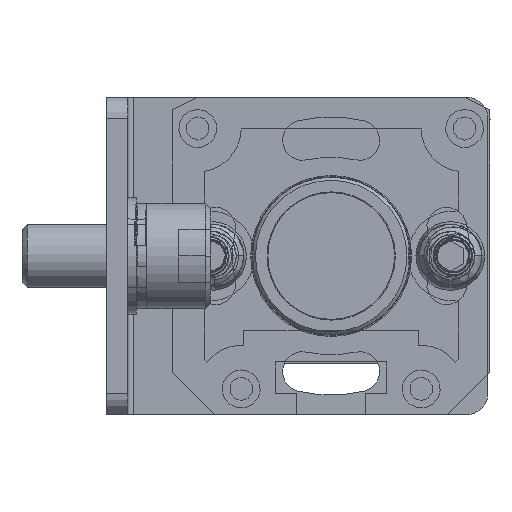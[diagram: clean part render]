
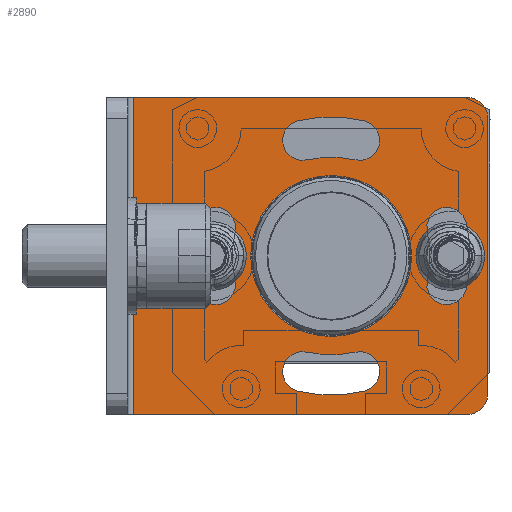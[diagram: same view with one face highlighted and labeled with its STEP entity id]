
A CAD part, front view. The second image highlights one B-rep face of the part: STEP entity #2890.
In plain terms, the highlighted planar face has unit normal (0, -1, 0).
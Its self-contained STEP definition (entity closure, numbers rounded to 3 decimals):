
#692=LINE('',#40670,#1452);
#697=LINE('',#40682,#1457);
#703=LINE('',#40698,#1463);
#707=LINE('',#40722,#1467);
#1452=VECTOR('',#13263,1.);
#1457=VECTOR('',#13272,1.);
#1463=VECTOR('',#13290,1.);
#1467=VECTOR('',#13320,1.);
#1962=PLANE('',#11082);
#2299=FACE_BOUND('',#4309,.T.);
#2300=FACE_BOUND('',#4310,.T.);
#2301=FACE_BOUND('',#4311,.T.);
#2302=FACE_BOUND('',#4312,.T.);
#2303=FACE_BOUND('',#4313,.T.);
#2304=FACE_BOUND('',#4314,.T.);
#2890=ADVANCED_FACE('',(#2299,#2300,#2301,#2302,#2303,#2304),#1962,.T.);
#4309=EDGE_LOOP('',(#6781,#6782,#6783,#6784));
#4310=EDGE_LOOP('',(#6785,#6786,#6787,#6788));
#4311=EDGE_LOOP('',(#6789,#6790,#6791,#6792));
#4312=EDGE_LOOP('',(#6793));
#4313=EDGE_LOOP('',(#6794,#6795,#6796,#6797));
#4314=EDGE_LOOP('',(#6798,#6799,#6800,#6801,#6802,#6803));
#6781=ORIENTED_EDGE('',*,*,#9603,.T.);
#6782=ORIENTED_EDGE('',*,*,#9604,.T.);
#6783=ORIENTED_EDGE('',*,*,#9542,.T.);
#6784=ORIENTED_EDGE('',*,*,#9605,.T.);
#6785=ORIENTED_EDGE('',*,*,#9606,.T.);
#6786=ORIENTED_EDGE('',*,*,#9546,.T.);
#6787=ORIENTED_EDGE('',*,*,#9607,.T.);
#6788=ORIENTED_EDGE('',*,*,#9550,.T.);
#6789=ORIENTED_EDGE('',*,*,#9608,.T.);
#6790=ORIENTED_EDGE('',*,*,#9554,.T.);
#6791=ORIENTED_EDGE('',*,*,#9609,.T.);
#6792=ORIENTED_EDGE('',*,*,#9558,.T.);
#6793=ORIENTED_EDGE('',*,*,#9563,.T.);
#6794=ORIENTED_EDGE('',*,*,#9610,.T.);
#6795=ORIENTED_EDGE('',*,*,#9611,.T.);
#6796=ORIENTED_EDGE('',*,*,#9612,.T.);
#6797=ORIENTED_EDGE('',*,*,#9564,.T.);
#6798=ORIENTED_EDGE('',*,*,#9613,.T.);
#6799=ORIENTED_EDGE('',*,*,#9614,.T.);
#6800=ORIENTED_EDGE('',*,*,#9598,.F.);
#6801=ORIENTED_EDGE('',*,*,#9584,.T.);
#6802=ORIENTED_EDGE('',*,*,#9590,.F.);
#6803=ORIENTED_EDGE('',*,*,#9615,.T.);
#8262=VERTEX_POINT('',#40580);
#8263=VERTEX_POINT('',#40581);
#8266=VERTEX_POINT('',#40589);
#8267=VERTEX_POINT('',#40590);
#8270=VERTEX_POINT('',#40598);
#8271=VERTEX_POINT('',#40599);
#8274=VERTEX_POINT('',#40607);
#8275=VERTEX_POINT('',#40608);
#8278=VERTEX_POINT('',#40616);
#8279=VERTEX_POINT('',#40617);
#8283=VERTEX_POINT('',#40627);
#8284=VERTEX_POINT('',#40630);
#8285=VERTEX_POINT('',#40631);
#8298=VERTEX_POINT('',#40667);
#8299=VERTEX_POINT('',#40669);
#8304=VERTEX_POINT('',#40681);
#8309=VERTEX_POINT('',#40699);
#8312=VERTEX_POINT('',#40709);
#8313=VERTEX_POINT('',#40710);
#8314=VERTEX_POINT('',#40718);
#8315=VERTEX_POINT('',#40720);
#8316=VERTEX_POINT('',#40723);
#8317=VERTEX_POINT('',#40724);
#9542=EDGE_CURVE('',#8262,#8263,#10244,.T.);
#9546=EDGE_CURVE('',#8266,#8267,#10246,.T.);
#9550=EDGE_CURVE('',#8270,#8271,#10248,.T.);
#9554=EDGE_CURVE('',#8274,#8275,#10250,.T.);
#9558=EDGE_CURVE('',#8278,#8279,#10252,.T.);
#9563=EDGE_CURVE('',#8283,#8283,#10255,.T.);
#9564=EDGE_CURVE('',#8284,#8285,#10256,.T.);
#9584=EDGE_CURVE('',#8298,#8299,#692,.T.);
#9590=EDGE_CURVE('',#8304,#8299,#697,.T.);
#9598=EDGE_CURVE('',#8298,#8309,#703,.T.);
#9603=EDGE_CURVE('',#8312,#8313,#10268,.T.);
#9604=EDGE_CURVE('',#8313,#8262,#10269,.T.);
#9605=EDGE_CURVE('',#8263,#8312,#10270,.T.);
#9606=EDGE_CURVE('',#8271,#8266,#10271,.T.);
#9607=EDGE_CURVE('',#8267,#8270,#10272,.T.);
#9608=EDGE_CURVE('',#8279,#8274,#10273,.T.);
#9609=EDGE_CURVE('',#8275,#8278,#10274,.T.);
#9610=EDGE_CURVE('',#8285,#8314,#10275,.T.);
#9611=EDGE_CURVE('',#8314,#8315,#10276,.T.);
#9612=EDGE_CURVE('',#8315,#8284,#10277,.T.);
#9613=EDGE_CURVE('',#8316,#8317,#707,.T.);
#9614=EDGE_CURVE('',#8317,#8309,#10278,.T.);
#9615=EDGE_CURVE('',#8304,#8316,#10279,.T.);
#10244=CIRCLE('',#11028,1.9);
#10246=CIRCLE('',#11031,13.15);
#10248=CIRCLE('',#11034,9.35);
#10250=CIRCLE('',#11037,1.9);
#10252=CIRCLE('',#11040,1.9);
#10255=CIRCLE('',#11044,7.6);
#10256=CIRCLE('',#11046,1.9);
#10268=CIRCLE('',#11070,1.9);
#10269=CIRCLE('',#11071,13.15);
#10270=CIRCLE('',#11072,9.35);
#10271=CIRCLE('',#11073,1.9);
#10272=CIRCLE('',#11074,1.9);
#10273=CIRCLE('',#11075,13.15);
#10274=CIRCLE('',#11076,9.35);
#10275=CIRCLE('',#11077,13.15);
#10276=CIRCLE('',#11078,1.9);
#10277=CIRCLE('',#11079,9.35);
#10278=CIRCLE('',#11080,2.);
#10279=CIRCLE('',#11081,2.);
#11028=AXIS2_PLACEMENT_3D('',#40579,#13179,#13180);
#11031=AXIS2_PLACEMENT_3D('',#40588,#13187,#13188);
#11034=AXIS2_PLACEMENT_3D('',#40597,#13195,#13196);
#11037=AXIS2_PLACEMENT_3D('',#40606,#13203,#13204);
#11040=AXIS2_PLACEMENT_3D('',#40615,#13211,#13212);
#11044=AXIS2_PLACEMENT_3D('',#40626,#13221,#13222);
#11046=AXIS2_PLACEMENT_3D('',#40629,#13225,#13226);
#11070=AXIS2_PLACEMENT_3D('',#40708,#13300,#13301);
#11071=AXIS2_PLACEMENT_3D('',#40711,#13302,#13303);
#11072=AXIS2_PLACEMENT_3D('',#40712,#13304,#13305);
#11073=AXIS2_PLACEMENT_3D('',#40713,#13306,#13307);
#11074=AXIS2_PLACEMENT_3D('',#40714,#13308,#13309);
#11075=AXIS2_PLACEMENT_3D('',#40715,#13310,#13311);
#11076=AXIS2_PLACEMENT_3D('',#40716,#13312,#13313);
#11077=AXIS2_PLACEMENT_3D('',#40717,#13314,#13315);
#11078=AXIS2_PLACEMENT_3D('',#40719,#13316,#13317);
#11079=AXIS2_PLACEMENT_3D('',#40721,#13318,#13319);
#11080=AXIS2_PLACEMENT_3D('',#40725,#13321,#13322);
#11081=AXIS2_PLACEMENT_3D('',#40726,#13323,#13324);
#11082=AXIS2_PLACEMENT_3D('',#40727,#13325,#13326);
#13179=DIRECTION('',(0.,1.,0.));
#13180=DIRECTION('',(0.,0.,1.));
#13187=DIRECTION('',(0.,1.,0.));
#13188=DIRECTION('',(0.,0.,1.));
#13195=DIRECTION('',(0.,-1.,0.));
#13196=DIRECTION('',(0.,0.,1.));
#13203=DIRECTION('',(0.,1.,0.));
#13204=DIRECTION('',(0.,0.,1.));
#13211=DIRECTION('',(0.,1.,0.));
#13212=DIRECTION('',(0.,0.,1.));
#13221=DIRECTION('',(0.,1.,0.));
#13222=DIRECTION('',(0.,0.,1.));
#13225=DIRECTION('',(0.,1.,0.));
#13226=DIRECTION('',(0.,0.,1.));
#13263=DIRECTION('',(0.,0.,-1.));
#13272=DIRECTION('',(-1.,0.,0.));
#13290=DIRECTION('',(1.,0.,0.));
#13300=DIRECTION('',(0.,1.,0.));
#13301=DIRECTION('',(0.,0.,1.));
#13302=DIRECTION('',(0.,1.,0.));
#13303=DIRECTION('',(0.,0.,1.));
#13304=DIRECTION('',(0.,-1.,0.));
#13305=DIRECTION('',(0.,0.,1.));
#13306=DIRECTION('',(0.,1.,0.));
#13307=DIRECTION('',(0.,0.,1.));
#13308=DIRECTION('',(0.,1.,0.));
#13309=DIRECTION('',(0.,0.,1.));
#13310=DIRECTION('',(0.,1.,0.));
#13311=DIRECTION('',(0.,0.,1.));
#13312=DIRECTION('',(0.,-1.,0.));
#13313=DIRECTION('',(0.,0.,1.));
#13314=DIRECTION('',(0.,1.,0.));
#13315=DIRECTION('',(0.,0.,1.));
#13316=DIRECTION('',(0.,1.,0.));
#13317=DIRECTION('',(0.,0.,1.));
#13318=DIRECTION('',(0.,-1.,0.));
#13319=DIRECTION('',(0.,0.,1.));
#13320=DIRECTION('',(0.,0.,1.));
#13321=DIRECTION('',(0.,-1.,0.));
#13322=DIRECTION('',(0.,0.,-1.));
#13323=DIRECTION('',(0.,-1.,0.));
#13324=DIRECTION('',(0.,0.,1.));
#13325=DIRECTION('',(0.,-1.,0.));
#13326=DIRECTION('',(-1.,0.,0.));
#40579=CARTESIAN_POINT('',(-110.921,-1598.,2.851));
#40580=CARTESIAN_POINT('',(-112.765,-1598.,3.307));
#40581=CARTESIAN_POINT('',(-109.077,-1598.,2.395));
#40588=CARTESIAN_POINT('',(-100.,-1598.,0.15));
#40589=CARTESIAN_POINT('',(-103.157,-1598.,12.915));
#40590=CARTESIAN_POINT('',(-96.843,-1598.,12.915));
#40597=CARTESIAN_POINT('',(-100.,-1598.,0.15));
#40598=CARTESIAN_POINT('',(-97.755,-1598.,9.227));
#40599=CARTESIAN_POINT('',(-102.245,-1598.,9.227));
#40606=CARTESIAN_POINT('',(-102.701,-1598.,-10.771));
#40607=CARTESIAN_POINT('',(-103.157,-1598.,-12.615));
#40608=CARTESIAN_POINT('',(-102.245,-1598.,-8.927));
#40615=CARTESIAN_POINT('',(-97.299,-1598.,-10.771));
#40616=CARTESIAN_POINT('',(-97.755,-1598.,-8.927));
#40617=CARTESIAN_POINT('',(-96.843,-1598.,-12.615));
#40626=CARTESIAN_POINT('',(-100.,-1598.,0.15));
#40627=CARTESIAN_POINT('',(-100.,-1598.,7.75));
#40629=CARTESIAN_POINT('',(-89.079,-1598.,2.851));
#40630=CARTESIAN_POINT('',(-90.923,-1598.,2.395));
#40631=CARTESIAN_POINT('',(-87.235,-1598.,3.307));
#40667=CARTESIAN_POINT('',(-118.7,-1598.,15.15));
#40669=CARTESIAN_POINT('',(-118.7,-1598.,-14.85));
#40670=CARTESIAN_POINT('',(-118.7,-1598.,15.15));
#40681=CARTESIAN_POINT('',(-87.2,-1598.,-14.85));
#40682=CARTESIAN_POINT('',(-118.7,-1598.,-14.85));
#40698=CARTESIAN_POINT('',(-118.7,-1598.,15.15));
#40699=CARTESIAN_POINT('',(-87.2,-1598.,15.15));
#40708=CARTESIAN_POINT('',(-110.921,-1598.,-2.551));
#40709=CARTESIAN_POINT('',(-109.077,-1598.,-2.095));
#40710=CARTESIAN_POINT('',(-112.765,-1598.,-3.007));
#40711=CARTESIAN_POINT('',(-100.,-1598.,0.15));
#40712=CARTESIAN_POINT('',(-100.,-1598.,0.15));
#40713=CARTESIAN_POINT('',(-102.701,-1598.,11.071));
#40714=CARTESIAN_POINT('',(-97.299,-1598.,11.071));
#40715=CARTESIAN_POINT('',(-100.,-1598.,0.15));
#40716=CARTESIAN_POINT('',(-100.,-1598.,0.15));
#40717=CARTESIAN_POINT('',(-100.,-1598.,0.15));
#40718=CARTESIAN_POINT('',(-87.235,-1598.,-3.007));
#40719=CARTESIAN_POINT('',(-89.079,-1598.,-2.551));
#40720=CARTESIAN_POINT('',(-90.923,-1598.,-2.095));
#40721=CARTESIAN_POINT('',(-100.,-1598.,0.15));
#40722=CARTESIAN_POINT('',(-85.2,-1598.,15.15));
#40723=CARTESIAN_POINT('',(-85.2,-1598.,-12.85));
#40724=CARTESIAN_POINT('',(-85.2,-1598.,13.15));
#40725=CARTESIAN_POINT('',(-87.2,-1598.,13.15));
#40726=CARTESIAN_POINT('',(-87.2,-1598.,-12.85));
#40727=CARTESIAN_POINT('',(-85.2,-1598.,15.15));
